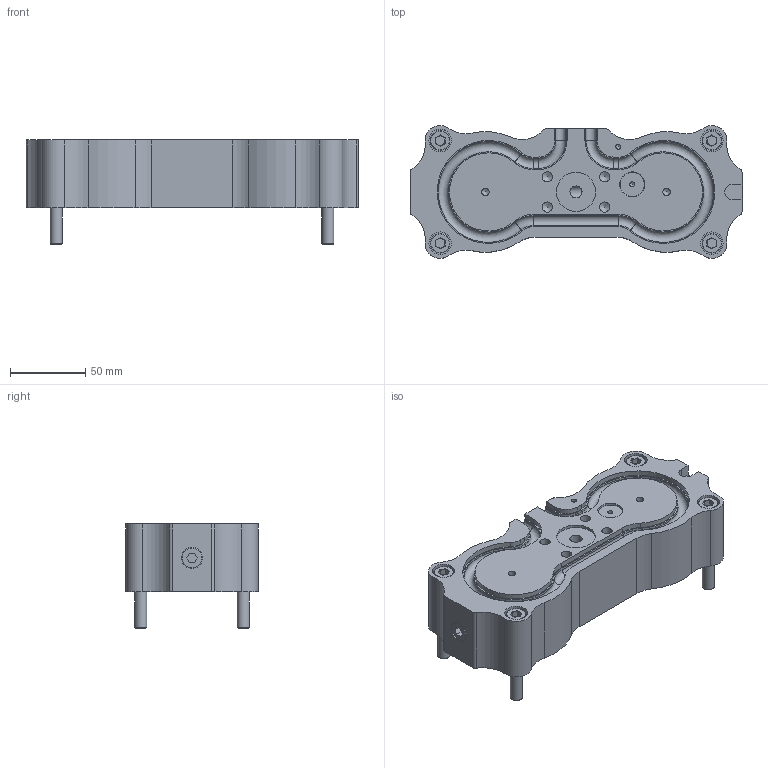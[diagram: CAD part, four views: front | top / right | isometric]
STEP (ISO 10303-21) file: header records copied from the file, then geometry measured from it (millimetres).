
FILE_DESCRIPTION(('STEP AP214'),'1');
FILE_NAME('S:/PROIECTE_YUDO_2011_dupa_01_07_2011/PROIECTE 2011_2D_DUPA_01_07_2011/YU CZ/YUCZ11-156/YUCZ11-156_MANIFOLD.step','2011-09-26T11:18:19',(' '),(' '),'Spatial InterOp 3D',' ',' ');
FILE_SCHEMA(('automotive_design'));
Length unit declared in the file: millimetre
Products named in the file (9): MF Block I Type; Bolt M08; End_plug; Stop_bolt
Bounding box: 220 x 87.99 x 69 mm (x, y, z)
Volume: 646372.1 mm3; surface area: 100341.3 mm2
Topology: 9 solids, 9 shells, 361 faces, 864 edges, 542 vertices
Faces by surface type: plane 157, cylinder 129, cone 59, torus 16
Full cylindrical faces by diameter (mm): 3.3 x4, 5 x8, 6 x2, 6.75 x8, 8 x12, 10 x4, 12 x4, 13 x4, 14 x4, 15 x5, 16 x1, 26 x1
Entity records: 13010 total; most frequent: DIRECTION 1824, CARTESIAN_POINT 1782, ORIENTED_EDGE 1508, EDGE_CURVE 754, AXIS2_PLACEMENT_3D 702, VERTEX_POINT 528, EDGE_LOOP 484, LINE 420
